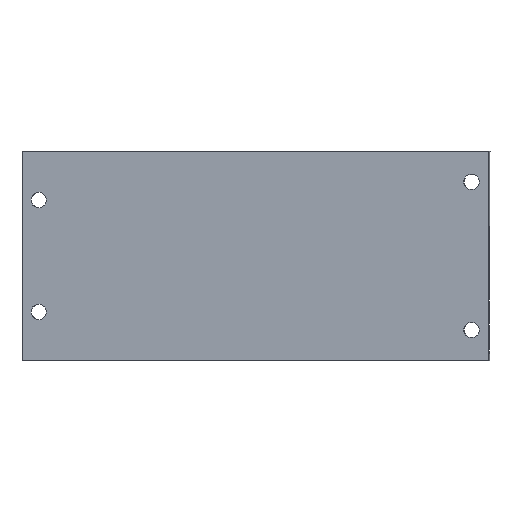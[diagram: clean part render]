
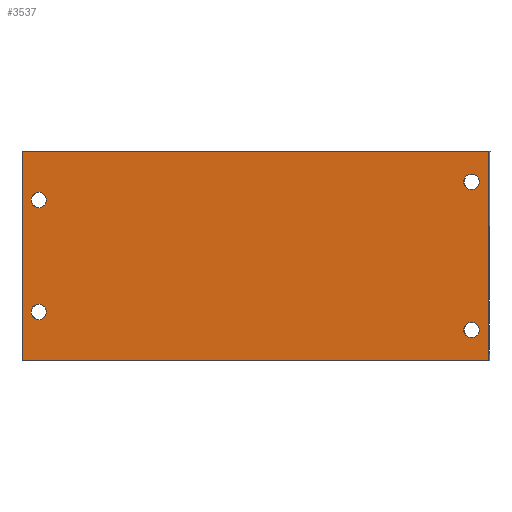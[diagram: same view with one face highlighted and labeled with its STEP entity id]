
A CAD part, top view. The second image highlights one B-rep face of the part: STEP entity #3537.
In plain terms, the highlighted planar face has unit normal (-0.053, 0, 0.999).
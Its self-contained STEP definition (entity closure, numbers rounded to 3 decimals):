
#40=PLANE('',#3624);
#81=CIRCLE('',#3625,5.5);
#82=CIRCLE('',#3626,5.5);
#83=CIRCLE('',#3627,5.5);
#84=CIRCLE('',#3628,5.5);
#231=LINE('',#21749,#273);
#233=LINE('',#21753,#275);
#235=LINE('',#21757,#277);
#236=LINE('',#21759,#278);
#273=VECTOR('',#3773,1000.);
#275=VECTOR('',#3777,1000.);
#277=VECTOR('',#3781,1000.);
#278=VECTOR('',#3784,1000.);
#1270=ORIENTED_EDGE('',*,*,#1869,.T.);
#1271=ORIENTED_EDGE('',*,*,#1870,.T.);
#1272=ORIENTED_EDGE('',*,*,#1871,.T.);
#1273=ORIENTED_EDGE('',*,*,#1872,.T.);
#1274=ORIENTED_EDGE('',*,*,#1863,.T.);
#1275=ORIENTED_EDGE('',*,*,#1865,.T.);
#1276=ORIENTED_EDGE('',*,*,#1867,.T.);
#1277=ORIENTED_EDGE('',*,*,#1868,.T.);
#1863=EDGE_CURVE('',#2218,#2219,#231,.T.);
#1865=EDGE_CURVE('',#2219,#2220,#233,.T.);
#1867=EDGE_CURVE('',#2220,#2221,#235,.T.);
#1868=EDGE_CURVE('',#2221,#2218,#236,.T.);
#1869=EDGE_CURVE('',#2222,#2222,#81,.F.);
#1870=EDGE_CURVE('',#2223,#2223,#82,.F.);
#1871=EDGE_CURVE('',#2224,#2224,#83,.F.);
#1872=EDGE_CURVE('',#2225,#2225,#84,.F.);
#2218=VERTEX_POINT('',#21746);
#2219=VERTEX_POINT('',#21748);
#2220=VERTEX_POINT('',#21752);
#2221=VERTEX_POINT('',#21756);
#2222=VERTEX_POINT('',#21762);
#2223=VERTEX_POINT('',#21764);
#2224=VERTEX_POINT('',#21766);
#2225=VERTEX_POINT('',#21768);
#2903=EDGE_LOOP('',(#1270));
#2904=EDGE_LOOP('',(#1271));
#2905=EDGE_LOOP('',(#1272));
#2906=EDGE_LOOP('',(#1273));
#2907=EDGE_LOOP('',(#1274,#1275,#1276,#1277));
#3171=FACE_BOUND('',#2903,.T.);
#3172=FACE_BOUND('',#2904,.T.);
#3173=FACE_BOUND('',#2905,.T.);
#3174=FACE_BOUND('',#2906,.T.);
#3175=FACE_BOUND('',#2907,.T.);
#3537=ADVANCED_FACE('',(#3171,#3172,#3173,#3174,#3175),#40,.T.);
#3624=AXIS2_PLACEMENT_3D('',#21760,#3785,#3786);
#3625=AXIS2_PLACEMENT_3D('',#21761,#3787,#3788);
#3626=AXIS2_PLACEMENT_3D('',#21763,#3789,#3790);
#3627=AXIS2_PLACEMENT_3D('',#21765,#3791,#3792);
#3628=AXIS2_PLACEMENT_3D('',#21767,#3793,#3794);
#3773=DIRECTION('',(0.,-1.,0.));
#3777=DIRECTION('',(0.999,0.,0.053));
#3781=DIRECTION('',(0.,1.,0.));
#3784=DIRECTION('',(-0.999,0.,-0.053));
#3785=DIRECTION('',(-0.053,0.,0.999));
#3786=DIRECTION('',(0.999,0.,0.053));
#3787=DIRECTION('',(-0.053,0.,0.999));
#3788=DIRECTION('',(0.999,0.,0.053));
#3789=DIRECTION('',(-0.053,0.,0.999));
#3790=DIRECTION('',(0.999,0.,0.053));
#3791=DIRECTION('',(-0.053,0.,0.999));
#3792=DIRECTION('',(0.999,0.,0.053));
#3793=DIRECTION('',(-0.053,0.,0.999));
#3794=DIRECTION('',(0.999,0.,0.053));
#21746=CARTESIAN_POINT('',(-70.567,91.069,32.));
#21748=CARTESIAN_POINT('',(-70.567,-58.931,32.));
#21749=CARTESIAN_POINT('',(-70.567,91.069,32.));
#21752=CARTESIAN_POINT('',(262.947,-58.931,49.683));
#21753=CARTESIAN_POINT('',(-70.567,-58.931,32.));
#21756=CARTESIAN_POINT('',(262.947,91.069,49.683));
#21757=CARTESIAN_POINT('',(262.947,-58.931,49.683));
#21759=CARTESIAN_POINT('',(262.947,91.069,49.683));
#21760=CARTESIAN_POINT('',(-1.89,0.,35.641));
#21761=CARTESIAN_POINT('',(-58.584,56.069,32.635));
#21762=CARTESIAN_POINT('',(-53.091,56.069,32.927));
#21763=CARTESIAN_POINT('',(-58.584,-23.931,32.635));
#21764=CARTESIAN_POINT('',(-53.091,-23.931,32.927));
#21765=CARTESIAN_POINT('',(250.964,69.069,49.048));
#21766=CARTESIAN_POINT('',(256.456,69.069,49.339));
#21767=CARTESIAN_POINT('',(250.964,-36.931,49.048));
#21768=CARTESIAN_POINT('',(256.456,-36.931,49.339));
